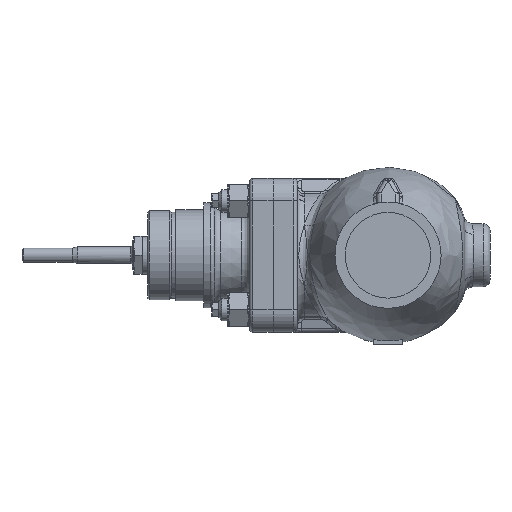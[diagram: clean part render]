
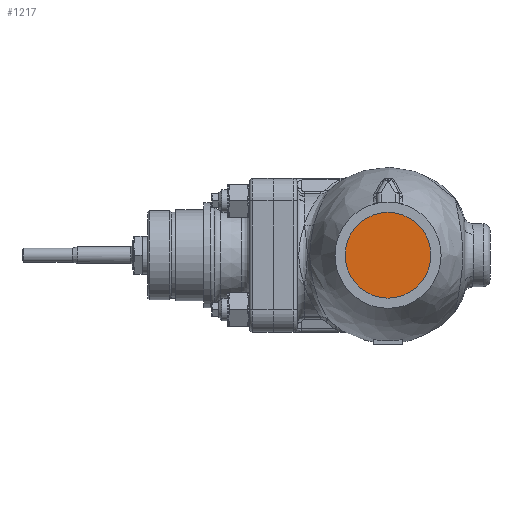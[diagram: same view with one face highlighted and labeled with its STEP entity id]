
A CAD part, left-side view. The second image highlights one B-rep face of the part: STEP entity #1217.
In plain terms, the highlighted planar face has unit normal (-1, 0, 0).
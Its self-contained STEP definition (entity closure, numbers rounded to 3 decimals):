
#290=FACE_OUTER_BOUND('',#2437,.T.);
#1217=ADVANCED_FACE('',(#290),#1505,.F.);
#1505=PLANE('',#6461);
#2437=EDGE_LOOP('',(#3559));
#3559=ORIENTED_EDGE('',*,*,#5402,.T.);
#4712=VERTEX_POINT('',#11702);
#5402=EDGE_CURVE('',#4712,#4712,#5995,.T.);
#5995=CIRCLE('',#6460,30.7);
#6460=AXIS2_PLACEMENT_3D('',#11701,#7545,#7546);
#6461=AXIS2_PLACEMENT_3D('',#11703,#7547,#7548);
#7545=DIRECTION('',(-1.,0.,0.));
#7546=DIRECTION('',(0.,0.,-1.));
#7547=DIRECTION('',(1.,0.,0.));
#7548=DIRECTION('',(0.,0.,-1.));
#11701=CARTESIAN_POINT('',(-127.,0.,0.));
#11702=CARTESIAN_POINT('',(-127.,0.,-30.7));
#11703=CARTESIAN_POINT('',(-127.,0.,0.));
